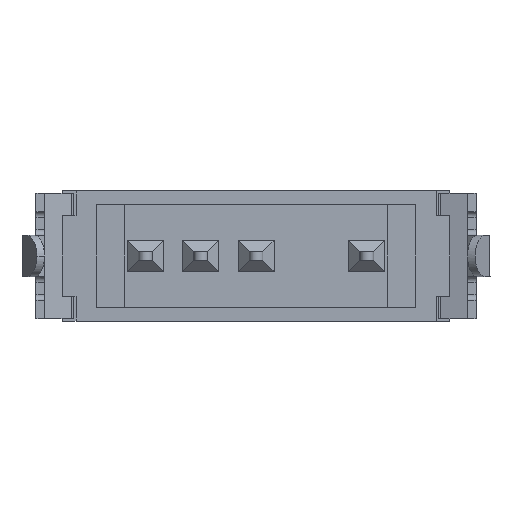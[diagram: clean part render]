
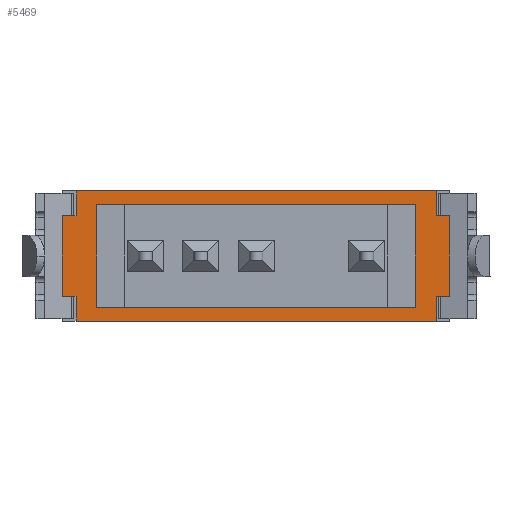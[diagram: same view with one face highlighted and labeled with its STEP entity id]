
A CAD part, front view. The second image highlights one B-rep face of the part: STEP entity #5469.
In plain terms, the highlighted planar face has unit normal (0, -1, 0).
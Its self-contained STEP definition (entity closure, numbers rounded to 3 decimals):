
#57 = DIRECTION ( 'NONE',  ( 0., 0., 1. ) ) ;
#65 = VECTOR ( 'NONE', #57, 1000. ) ;
#66 = CARTESIAN_POINT ( 'NONE',  ( 5.75, 1.4, 2.35 ) ) ;
#67 = LINE ( 'NONE', #66, #65 ) ;
#78 = CARTESIAN_POINT ( 'NONE',  ( -5.75, 1.4, 1.85 ) ) ;
#162 = CARTESIAN_POINT ( 'NONE',  ( -5.75, 1.4, -1.85 ) ) ;
#184 = DIRECTION ( 'NONE',  ( 0., 0., -1. ) ) ;
#185 = VECTOR ( 'NONE', #184, 1000. ) ;
#221 = CARTESIAN_POINT ( 'NONE',  ( -5.75, 1.4, 2.35 ) ) ;
#222 = LINE ( 'NONE', #221, #185 ) ;
#240 = CARTESIAN_POINT ( 'NONE',  ( 6.5, 1.4, 1.45 ) ) ;
#258 = CARTESIAN_POINT ( 'NONE',  ( 5.75, 1.4, 1.85 ) ) ;
#277 = DIRECTION ( 'NONE',  ( -1., 0., 0. ) ) ;
#278 = VECTOR ( 'NONE', #277, 1000. ) ;
#279 = CARTESIAN_POINT ( 'NONE',  ( -7., 1.4, -1.45 ) ) ;
#283 = CARTESIAN_POINT ( 'NONE',  ( 6.5, 1.4, -1.45 ) ) ;
#289 = DIRECTION ( 'NONE',  ( 0., 0., 1. ) ) ;
#306 = VECTOR ( 'NONE', #408, 1000. ) ;
#310 = DIRECTION ( 'NONE',  ( 0., 1., 0. ) ) ;
#311 = CARTESIAN_POINT ( 'NONE',  ( -7., 1.4, 2.35 ) ) ;
#312 = LINE ( 'NONE', #279, #278 ) ;
#330 = CARTESIAN_POINT ( 'NONE',  ( 6.5, 1.4, -2.35 ) ) ;
#334 = PLANE ( 'NONE',  #348 ) ;
#336 = CARTESIAN_POINT ( 'NONE',  ( 7., 1.4, 1.45 ) ) ;
#337 = DIRECTION ( 'NONE',  ( -1., 0., 0. ) ) ;
#338 = VECTOR ( 'NONE', #337, 1000. ) ;
#339 = CARTESIAN_POINT ( 'NONE',  ( -7., 1.4, 1.85 ) ) ;
#340 = LINE ( 'NONE', #339, #338 ) ;
#341 = CARTESIAN_POINT ( 'NONE',  ( -6.5, 1.4, -1.45 ) ) ;
#342 = FACE_BOUND ( 'NONE', #5582, .T. ) ;
#348 = AXIS2_PLACEMENT_3D ( 'NONE', #311, #310, #289 ) ;
#372 = FACE_OUTER_BOUND ( 'NONE', #5650, .T. ) ;
#408 = DIRECTION ( 'NONE',  ( 1., 0., 0. ) ) ;
#419 = LINE ( 'NONE', #437, #306 ) ;
#430 = DIRECTION ( 'NONE',  ( 1., 0., 0. ) ) ;
#431 = VECTOR ( 'NONE', #430, 1000. ) ;
#433 = CARTESIAN_POINT ( 'NONE',  ( 5.75, 1.4, -1.85 ) ) ;
#434 = CARTESIAN_POINT ( 'NONE',  ( -7., 1.4, -1.85 ) ) ;
#435 = LINE ( 'NONE', #434, #431 ) ;
#437 = CARTESIAN_POINT ( 'NONE',  ( -7., 1.4, 1.45 ) ) ;
#473 = DIRECTION ( 'NONE',  ( -1., 0., 0. ) ) ;
#500 = CARTESIAN_POINT ( 'NONE',  ( -7., 1.4, -1.45 ) ) ;
#501 = LINE ( 'NONE', #500, #546 ) ;
#545 = CARTESIAN_POINT ( 'NONE',  ( 7., 1.4, -1.45 ) ) ;
#546 = VECTOR ( 'NONE', #473, 1000. ) ;
#579 = CARTESIAN_POINT ( 'NONE',  ( -7., 1.4, -1.45 ) ) ;
#621 = DIRECTION ( 'NONE',  ( 0., 0., -1. ) ) ;
#622 = VECTOR ( 'NONE', #621, 1000. ) ;
#641 = CARTESIAN_POINT ( 'NONE',  ( 7., 1.4, 2.35 ) ) ;
#643 = LINE ( 'NONE', #641, #622 ) ;
#659 = DIRECTION ( 'NONE',  ( 0., 0., 1. ) ) ;
#660 = VECTOR ( 'NONE', #659, 1000. ) ;
#662 = DIRECTION ( 'NONE',  ( -1., 0., 0. ) ) ;
#663 = VECTOR ( 'NONE', #662, 1000. ) ;
#665 = DIRECTION ( 'NONE',  ( 1., 0., 0. ) ) ;
#666 = VECTOR ( 'NONE', #665, 1000. ) ;
#667 = CARTESIAN_POINT ( 'NONE',  ( -7., 1.4, 1.45 ) ) ;
#668 = LINE ( 'NONE', #667, #666 ) ;
#678 = DIRECTION ( 'NONE',  ( 1., 0., 0. ) ) ;
#679 = VECTOR ( 'NONE', #678, 1000. ) ;
#681 = DIRECTION ( 'NONE',  ( 0., 0., 1. ) ) ;
#682 = VECTOR ( 'NONE', #681, 1000. ) ;
#683 = CARTESIAN_POINT ( 'NONE',  ( -7., 1.4, 2.35 ) ) ;
#684 = LINE ( 'NONE', #683, #679 ) ;
#691 = LINE ( 'NONE', #721, #723 ) ;
#719 = CARTESIAN_POINT ( 'NONE',  ( -6.5, 1.4, 2.35 ) ) ;
#721 = CARTESIAN_POINT ( 'NONE',  ( 6.5, 1.4, -2.35 ) ) ;
#722 = CARTESIAN_POINT ( 'NONE',  ( 6.5, 1.4, 2.35 ) ) ;
#723 = VECTOR ( 'NONE', #761, 1000. ) ;
#724 = CARTESIAN_POINT ( 'NONE',  ( -6.5, 1.4, 2.35 ) ) ;
#725 = LINE ( 'NONE', #724, #682 ) ;
#738 = LINE ( 'NONE', #819, #750 ) ;
#749 = DIRECTION ( 'NONE',  ( 0., 0., 1. ) ) ;
#750 = VECTOR ( 'NONE', #749, 1000. ) ;
#761 = DIRECTION ( 'NONE',  ( 0., 0., 1. ) ) ;
#803 = DIRECTION ( 'NONE',  ( 0., 0., 1. ) ) ;
#804 = VECTOR ( 'NONE', #803, 1000. ) ;
#805 = CARTESIAN_POINT ( 'NONE',  ( -7., 1.4, 2.35 ) ) ;
#806 = LINE ( 'NONE', #805, #804 ) ;
#819 = CARTESIAN_POINT ( 'NONE',  ( 6.5, 1.4, -2.35 ) ) ;
#823 = CARTESIAN_POINT ( 'NONE',  ( -7., 1.4, -2.35 ) ) ;
#824 = LINE ( 'NONE', #823, #663 ) ;
#825 = CARTESIAN_POINT ( 'NONE',  ( -6.5, 1.4, 2.35 ) ) ;
#826 = LINE ( 'NONE', #825, #660 ) ;
#948 = CARTESIAN_POINT ( 'NONE',  ( -6.5, 1.4, -2.35 ) ) ;
#5243 = VERTEX_POINT ( 'NONE', #9780 ) ;
#5321 = VERTEX_POINT ( 'NONE', #9740 ) ;
#5382 = EDGE_CURVE ( 'NONE', #5429, #5400, #67, .T. ) ;
#5386 = VERTEX_POINT ( 'NONE', #78 ) ;
#5390 = VERTEX_POINT ( 'NONE', #162 ) ;
#5400 = VERTEX_POINT ( 'NONE', #258 ) ;
#5403 = VERTEX_POINT ( 'NONE', #240 ) ;
#5416 = EDGE_CURVE ( 'NONE', #5386, #5390, #222, .T. ) ;
#5418 = EDGE_CURVE ( 'NONE', #5403, #5459, #419, .T. ) ;
#5424 = EDGE_CURVE ( 'NONE', #5390, #5429, #435, .T. ) ;
#5429 = VERTEX_POINT ( 'NONE', #433 ) ;
#5455 = EDGE_CURVE ( 'NONE', #5400, #5386, #340, .T. ) ;
#5459 = VERTEX_POINT ( 'NONE', #336 ) ;
#5460 = VERTEX_POINT ( 'NONE', #341 ) ;
#5462 = ORIENTED_EDGE ( 'NONE', *, *, #5572, .F. ) ;
#5468 = ORIENTED_EDGE ( 'NONE', *, *, #5577, .F. ) ;
#5469 = ADVANCED_FACE ( 'NONE', ( #342, #372 ), #334, .F. ) ;
#5470 = ORIENTED_EDGE ( 'NONE', *, *, #5455, .F. ) ;
#5471 = VERTEX_POINT ( 'NONE', #330 ) ;
#5472 = ORIENTED_EDGE ( 'NONE', *, *, #5424, .F. ) ;
#5473 = ORIENTED_EDGE ( 'NONE', *, *, #5489, .F. ) ;
#5479 = VERTEX_POINT ( 'NONE', #283 ) ;
#5480 = EDGE_CURVE ( 'NONE', #5498, #5479, #312, .T. ) ;
#5489 = EDGE_CURVE ( 'NONE', #5460, #5517, #501, .T. ) ;
#5496 = EDGE_CURVE ( 'NONE', #5459, #5498, #643, .T. ) ;
#5498 = VERTEX_POINT ( 'NONE', #545 ) ;
#5517 = VERTEX_POINT ( 'NONE', #579 ) ;
#5535 = ORIENTED_EDGE ( 'NONE', *, *, #5382, .F. ) ;
#5540 = EDGE_CURVE ( 'NONE', #5471, #5655, #824, .T. ) ;
#5541 = EDGE_CURVE ( 'NONE', #5471, #5479, #738, .T. ) ;
#5543 = ORIENTED_EDGE ( 'NONE', *, *, #5564, .F. ) ;
#5544 = ORIENTED_EDGE ( 'NONE', *, *, #5541, .T. ) ;
#5545 = ORIENTED_EDGE ( 'NONE', *, *, #5569, .T. ) ;
#5546 = ORIENTED_EDGE ( 'NONE', *, *, #5496, .F. ) ;
#5547 = ORIENTED_EDGE ( 'NONE', *, *, #5480, .F. ) ;
#5561 = VERTEX_POINT ( 'NONE', #719 ) ;
#5564 = EDGE_CURVE ( 'NONE', #5243, #5561, #826, .T. ) ;
#5569 = EDGE_CURVE ( 'NONE', #5403, #5571, #691, .T. ) ;
#5570 = ORIENTED_EDGE ( 'NONE', *, *, #5418, .F. ) ;
#5571 = VERTEX_POINT ( 'NONE', #722 ) ;
#5572 = EDGE_CURVE ( 'NONE', #5561, #5571, #684, .T. ) ;
#5577 = EDGE_CURVE ( 'NONE', #5655, #5460, #725, .T. ) ;
#5582 = EDGE_LOOP ( 'NONE', ( #5472, #5583, #5470, #5535 ) ) ;
#5583 = ORIENTED_EDGE ( 'NONE', *, *, #5416, .F. ) ;
#5588 = EDGE_CURVE ( 'NONE', #5517, #5321, #806, .T. ) ;
#5598 = ORIENTED_EDGE ( 'NONE', *, *, #5614, .F. ) ;
#5599 = ORIENTED_EDGE ( 'NONE', *, *, #5588, .F. ) ;
#5614 = EDGE_CURVE ( 'NONE', #5321, #5243, #668, .T. ) ;
#5650 = EDGE_LOOP ( 'NONE', ( #5473, #5468, #5651, #5544, #5547, #5546, #5570, #5545, #5462, #5543, #5598, #5599 ) ) ;
#5651 = ORIENTED_EDGE ( 'NONE', *, *, #5540, .F. ) ;
#5655 = VERTEX_POINT ( 'NONE', #948 ) ;
#9740 = CARTESIAN_POINT ( 'NONE',  ( -7., 1.4, 1.45 ) ) ;
#9780 = CARTESIAN_POINT ( 'NONE',  ( -6.5, 1.4, 1.45 ) ) ;
